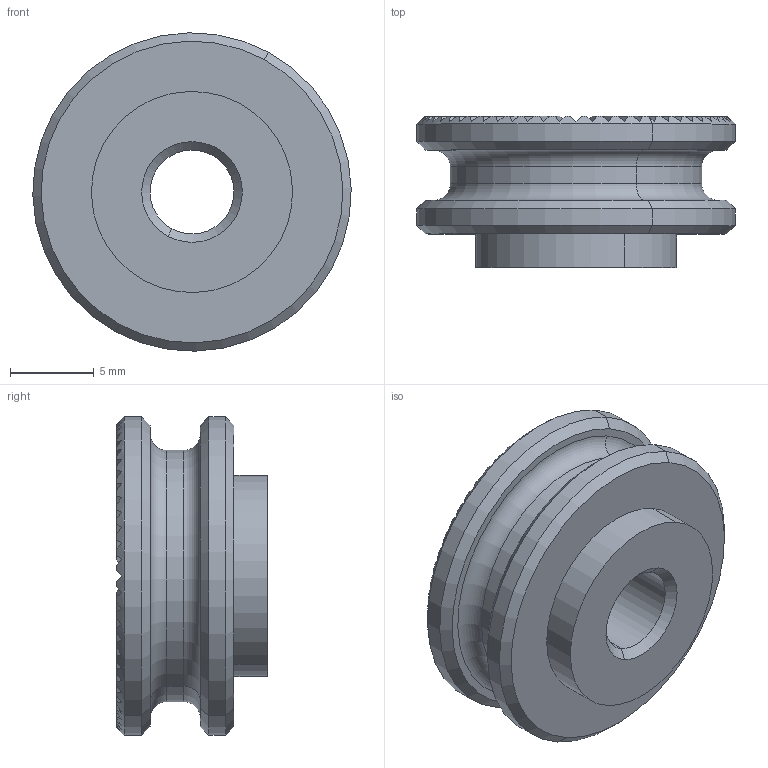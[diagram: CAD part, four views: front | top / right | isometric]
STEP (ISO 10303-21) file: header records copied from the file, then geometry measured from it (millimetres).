
FILE_DESCRIPTION(('CATIA V5 STEP'),'2;1');
FILE_NAME('C:\CADPool\catdb\Motor\214extra\Rad.stp','2005-10-28T08:27:57+00:00',('none'),('none'),'CATIA Version 5','CATIA V5 STEP AP214','none');
FILE_SCHEMA(('AUTOMOTIVE_DESIGN { 1 0 10303 214 1 1 1 1 }'));
Length unit declared in the file: millimetre
Products named in the file (1): Rad
Bounding box: 18.99 x 9 x 18.99 mm (x, y, z)
Volume: 1613.7 mm3; surface area: 1260.5 mm2
Topology: 1 solids, 1 shells, 213 faces, 608 edges, 400 vertices
Faces by surface type: plane 185, cone 14, cylinder 10, torus 4
Entity records: 6714 total; most frequent: CARTESIAN_POINT 1920, ORIENTED_EDGE 1216, DIRECTION 642, EDGE_CURVE 608, VERTEX_POINT 400, AXIS2_PLACEMENT_3D 300, B_SPLINE_CURVE_WITH_KNOTS 244, EDGE_LOOP 218
